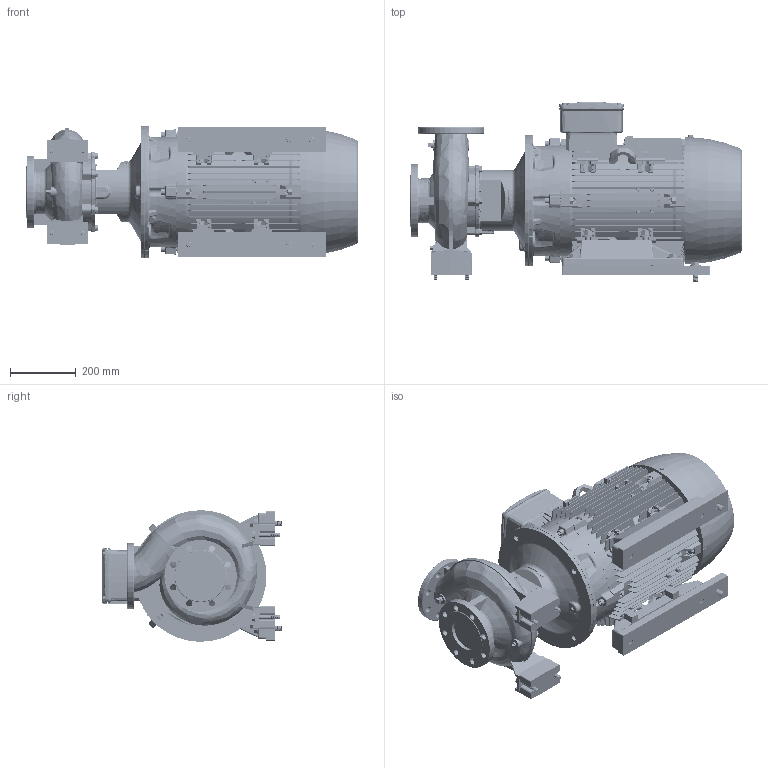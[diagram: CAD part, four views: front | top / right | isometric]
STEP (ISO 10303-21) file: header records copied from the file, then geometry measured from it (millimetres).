
FILE_DESCRIPTION (( 'STEP AP214' ), '1' );
FILE_NAME ('GSD2 80-160_30.0_(200ML)_W21.STEP', '2026-07-08T06:14:48', ( '' ), ( '' ), 'SwSTEP 2.0', 'SolidWorks 2024', '' );
FILE_SCHEMA (( 'AUTOMOTIVE_DESIGN' ));
Length unit declared in the file: millimetre
Products named in the file (12): Parametric bolt and washer_SFT-A319B; Parametric Flat Washer_M12; 80-160-200M_L_ﾃﾞﾌｫﾙﾄ; CGS11-5311_2_3_4_5_CGS11-5312; Parametric bolt and washer_SFT-A359B; CGS11-5311_2_3_4_5_CGS11-5311; GSD2  80-160_30.0_(200ML)_W21; Parametric Flat Washer_M16; 200M_L ALIE3_W21T_B35; Parametric bolt_SFT-A359B; 80x25 - CGSDA-5271; Parametric bolt_SFT-A319B
Assembly tree (22 placements, depth 3):
  GSD2  80-160_30.0_(200ML)_W21
    80-160-200M_L_ﾃﾞﾌｫﾙﾄ
    CGS11-5311_2_3_4_5_CGS11-5312  x2
    CGS11-5311_2_3_4_5_CGS11-5311  x2
    80x25 - CGSDA-5271  x2
    Parametric bolt and washer_SFT-A319B  x4
      Parametric bolt_SFT-A319B
      Parametric Flat Washer_M12
    Parametric bolt and washer_SFT-A359B  x6
      Parametric bolt_SFT-A359B
      Parametric Flat Washer_M16
    200M_L ALIE3_W21T_B35
Bounding box: 1008.8 x 546.5 x 400 mm (x, y, z)
Volume: 82964753.9 mm3; surface area: 4344172.4 mm2
Topology: 49 solids, 59 shells, 7314 faces, 18937 edges, 12151 vertices
Faces by surface type: plane 4225, cylinder 1357, bspline 981, cone 532, torus 215, sphere 4
Entity records: 269874 total; most frequent: CARTESIAN_POINT 115521, ORIENTED_EDGE 34466, DIRECTION 27830, EDGE_CURVE 17233, VERTEX_POINT 11109, VECTOR 10682, LINE 10682, AXIS2_PLACEMENT_3D 8574
